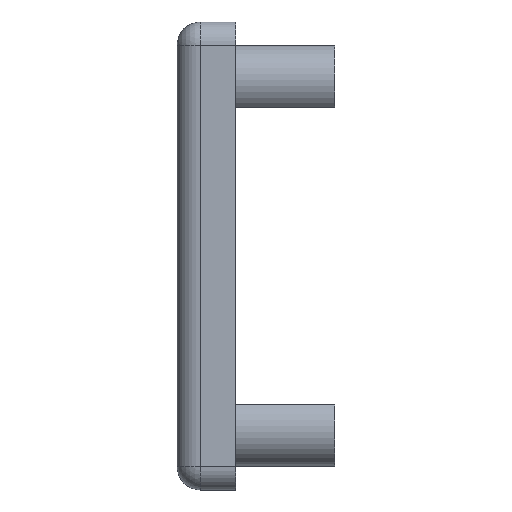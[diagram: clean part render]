
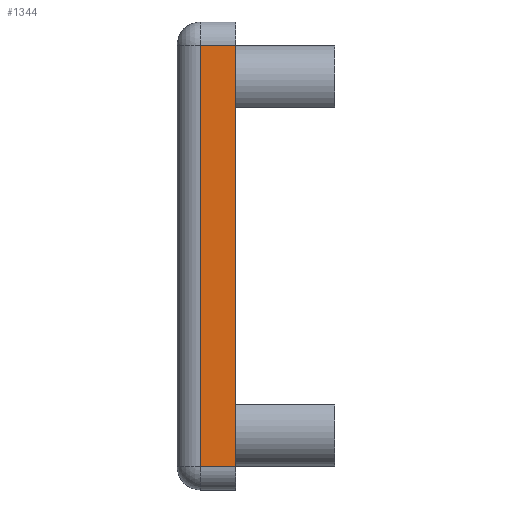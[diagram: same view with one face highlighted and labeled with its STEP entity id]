
A CAD part, left-side view. The second image highlights one B-rep face of the part: STEP entity #1344.
In plain terms, the highlighted planar face has unit normal (-1, 0, 0).
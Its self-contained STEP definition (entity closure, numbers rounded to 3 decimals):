
#110 = VECTOR ( 'NONE', #2005, 1000. ) ;
#115 = EDGE_LOOP ( 'NONE', ( #627, #2454, #1921, #1934 ) ) ;
#192 = LINE ( 'NONE', #1862, #1980 ) ;
#290 = VERTEX_POINT ( 'NONE', #1276 ) ;
#305 = DIRECTION ( 'NONE',  ( 0., 0., -1. ) ) ;
#312 = FACE_OUTER_BOUND ( 'NONE', #115, .T. ) ;
#503 = DIRECTION ( 'NONE',  ( 1., 0., 0. ) ) ;
#555 = CARTESIAN_POINT ( 'NONE',  ( -25.7, 5., 14.319 ) ) ;
#627 = ORIENTED_EDGE ( 'NONE', *, *, #1712, .T. ) ;
#631 = VECTOR ( 'NONE', #764, 1000. ) ;
#705 = VERTEX_POINT ( 'NONE', #1738 ) ;
#764 = DIRECTION ( 'NONE',  ( 0., 0., -1. ) ) ;
#922 = PLANE ( 'NONE',  #1023 ) ;
#1023 = AXIS2_PLACEMENT_3D ( 'NONE', #1707, #503, #305 ) ;
#1064 = VERTEX_POINT ( 'NONE', #1227 ) ;
#1069 = EDGE_CURVE ( 'NONE', #2206, #1064, #1116, .T. ) ;
#1116 = LINE ( 'NONE', #2038, #110 ) ;
#1162 = LINE ( 'NONE', #1367, #631 ) ;
#1227 = CARTESIAN_POINT ( 'NONE',  ( -25.7, 0., -21.681 ) ) ;
#1276 = CARTESIAN_POINT ( 'NONE',  ( -25.7, 0., 14.319 ) ) ;
#1289 = VECTOR ( 'NONE', #2531, 1000. ) ;
#1344 = ADVANCED_FACE ( 'NONE', ( #312 ), #922, .F. ) ;
#1367 = CARTESIAN_POINT ( 'NONE',  ( -25.7, 3., -23.681 ) ) ;
#1686 = DIRECTION ( 'NONE',  ( 0., 0., 1. ) ) ;
#1694 = EDGE_CURVE ( 'NONE', #290, #705, #1829, .T. ) ;
#1707 = CARTESIAN_POINT ( 'NONE',  ( -25.7, 5., -23.681 ) ) ;
#1712 = EDGE_CURVE ( 'NONE', #705, #2206, #1162, .T. ) ;
#1738 = CARTESIAN_POINT ( 'NONE',  ( -25.7, 3., 14.319 ) ) ;
#1829 = LINE ( 'NONE', #555, #1289 ) ;
#1862 = CARTESIAN_POINT ( 'NONE',  ( -25.7, 0., -23.681 ) ) ;
#1921 = ORIENTED_EDGE ( 'NONE', *, *, #2126, .T. ) ;
#1934 = ORIENTED_EDGE ( 'NONE', *, *, #1694, .T. ) ;
#1980 = VECTOR ( 'NONE', #1686, 1000. ) ;
#2005 = DIRECTION ( 'NONE',  ( 0., -1., 0. ) ) ;
#2038 = CARTESIAN_POINT ( 'NONE',  ( -25.7, 5., -21.681 ) ) ;
#2126 = EDGE_CURVE ( 'NONE', #1064, #290, #192, .T. ) ;
#2206 = VERTEX_POINT ( 'NONE', #2293 ) ;
#2293 = CARTESIAN_POINT ( 'NONE',  ( -25.7, 3., -21.681 ) ) ;
#2454 = ORIENTED_EDGE ( 'NONE', *, *, #1069, .T. ) ;
#2531 = DIRECTION ( 'NONE',  ( 0., 1., 0. ) ) ;
